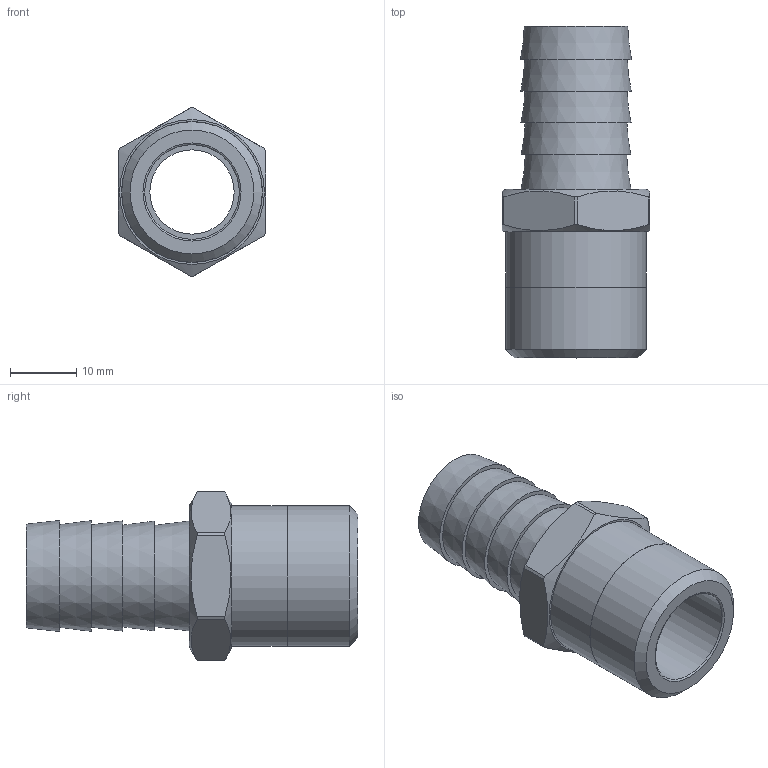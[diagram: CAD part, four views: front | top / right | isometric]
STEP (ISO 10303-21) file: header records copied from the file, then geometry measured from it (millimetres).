
FILE_DESCRIPTION(/* description */ (''),/* implementation_level */ '2;1');
FILE_NAME(/* name */ 'C:/Users/drich/Desktop/MB10-8 v1.step',/* time_stamp */ '2020-02-02T14:53:27-06:00',/* author */ (''),/* organization */ (''),/* preprocessor_version */ 'ST-DEVELOPER v18',/* originating_system */ 'Autodesk Translation Framework v8.12.0.6',/* authorisation */ '');
FILE_SCHEMA (('AUTOMOTIVE_DESIGN { 1 0 10303 214 3 1 1 }'));
Length unit declared in the file: inch
Products named in the file (2): MB10-8; 10 BARB ONLY
Assembly tree (1 placements, depth 2):
  MB10-8
    10 BARB ONLY
Bounding box: 22.23 x 50.04 x 25.4 mm (x, y, z)
Volume: 7367.3 mm3; surface area: 5861.7 mm2
Topology: 2 solids, 2 shells, 38 faces, 100 edges, 72 vertices
Faces by surface type: plane 16, cylinder 11, cone 10, torus 1
Full cylindrical faces by diameter (mm): 12.7 x2, 14.275 x1, 21.209 x1, 21.26 x1
Entity records: 1292 total; most frequent: CARTESIAN_POINT 237, DIRECTION 231, ORIENTED_EDGE 200, AXIS2_PLACEMENT_3D 102, EDGE_CURVE 100, VERTEX_POINT 72, CIRCLE 61, EDGE_LOOP 48
